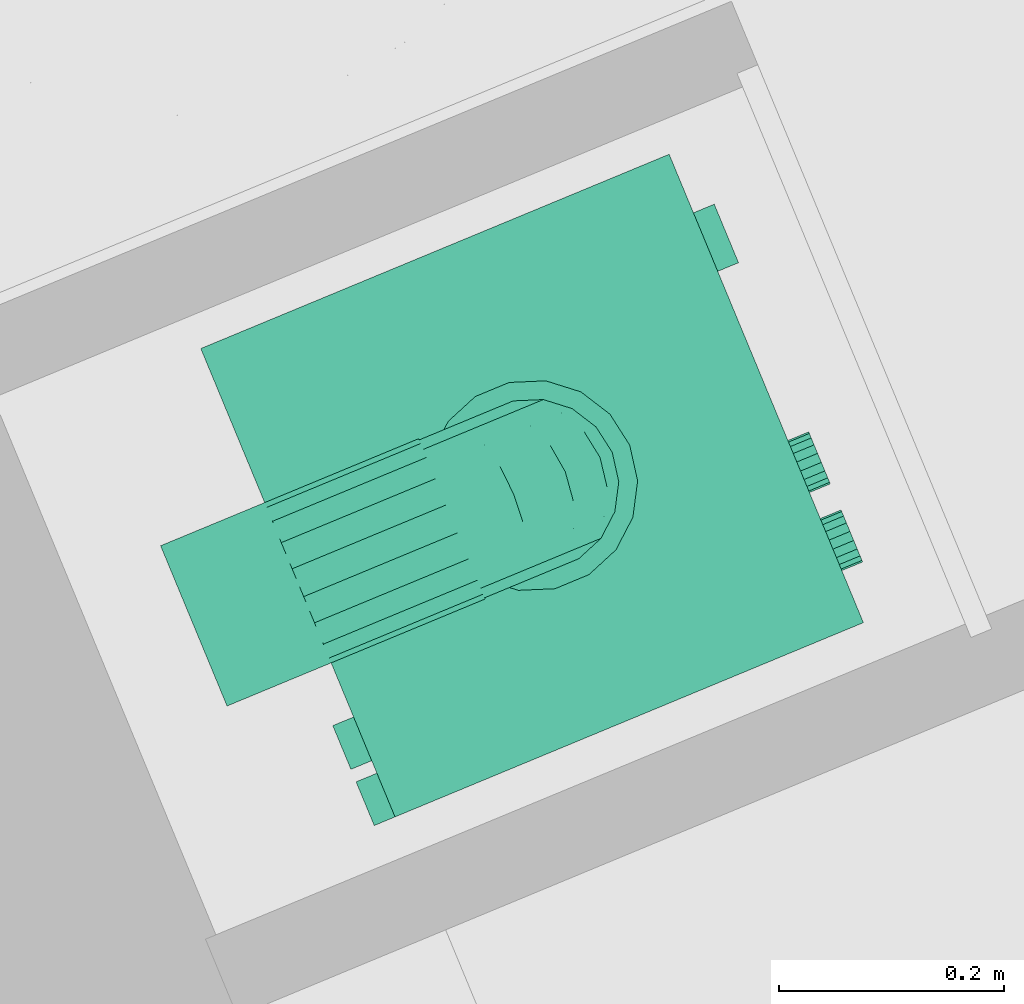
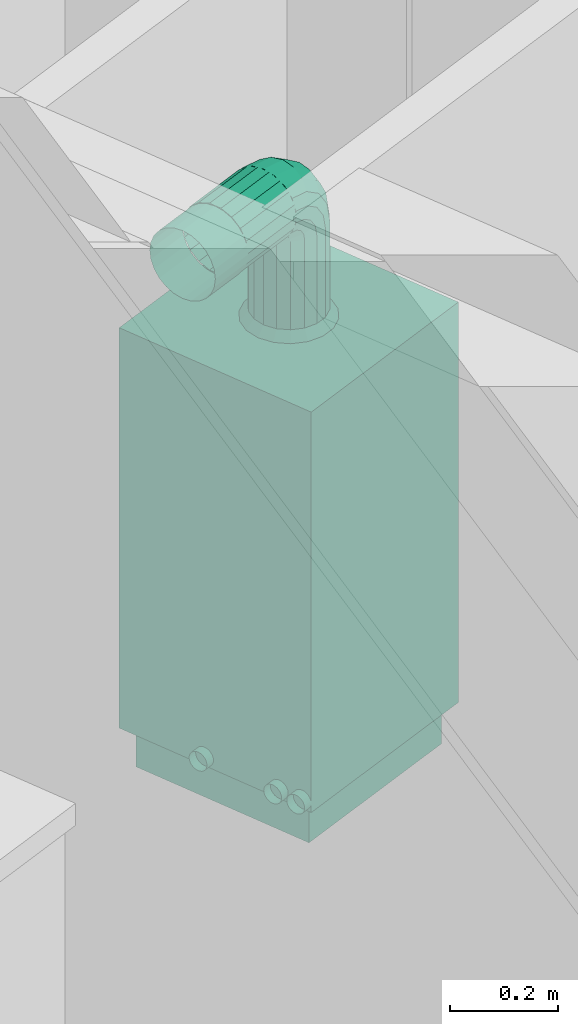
# One storey, part 64 of 91: 1 energy conversion device.
"""IFC2X3 building model written with IfcOpenShell, lengths in metres."""

from ifc_helpers import new_model, entity, si_unit, converted_unit, derived_unit, money_unit, direction, frame, origin_with_axes, place, context, subcontext, project, spatial, open_shell, faceted_brep, surface_model, source, transform, mapped, type_object, element, save


model = new_model("IFC2X3")

# Units and contexts
model_context = context("Model", 3, precision=1e-05, world=origin_with_axes(), true_north=direction((0.0, 1.0)))
body_context = subcontext(model_context, "Body", "Model", "MODEL_VIEW")
ifc_project = project(units=[si_unit("LENGTHUNIT", "METRE"), si_unit("AREAUNIT", "SQUARE_METRE"), si_unit("VOLUMEUNIT", "CUBIC_METRE"), converted_unit("PLANEANGLEUNIT", "DEGREE", entity("IfcPlaneAngleMeasure", 0.0174532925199), si_unit("PLANEANGLEUNIT", "RADIAN"), dimensions=[0, 0, 0, 0, 0, 0, 0]), si_unit("SOLIDANGLEUNIT", "STERADIAN"), money_unit("EUR"), converted_unit("TIMEUNIT", "Year", entity("IfcTimeMeasure", 31556926.0), si_unit("TIMEUNIT", "SECOND"), dimensions=[0, 0, 1, 0, 0, 0, 0]), si_unit("MASSUNIT", "GRAM", prefix="KILO"), si_unit("THERMODYNAMICTEMPERATUREUNIT", "DEGREE_CELSIUS"), si_unit("LUMINOUSINTENSITYUNIT", "LUMEN"), si_unit("ENERGYUNIT", "JOULE", prefix="MEGA"), derived_unit("THERMALCONDUCTANCEUNIT", [(si_unit("POWERUNIT", "WATT"), 1), (si_unit("LENGTHUNIT", "METRE"), -1), (si_unit("THERMODYNAMICTEMPERATUREUNIT", "KELVIN"), -1)]), derived_unit("SPECIFICHEATCAPACITYUNIT", [(si_unit("ENERGYUNIT", "JOULE"), 1), (si_unit("MASSUNIT", "GRAM", prefix="KILO"), -1), (si_unit("THERMODYNAMICTEMPERATUREUNIT", "KELVIN"), -1)]), derived_unit("MASSDENSITYUNIT", [(si_unit("MASSUNIT", "GRAM", prefix="KILO"), 1), (si_unit("VOLUMEUNIT", "CUBIC_METRE"), -1)])], contexts=[model_context])

# Site, building, storey
site_placement = place(None, origin_with_axes())
site = spatial("IfcSite", under=ifc_project, at=site_placement, Name="Site", CompositionType="ELEMENT")
building_placement = place(site_placement, origin_with_axes())
building = spatial("IfcBuilding", under=site, at=building_placement, Name="Bâtiment", CompositionType="ELEMENT")
storey_placement = place(building_placement, frame((0.0, 0.0, 5.44), z_axis=(0.0, 0.0, 1.0), x_axis=(1.0, 0.0, 0.0)))
storey = spatial("IfcBuildingStorey", under=building, at=storey_placement, Name="R+2", CompositionType="ELEMENT", Elevation=5.44)

# Energy conversion device
boiler_type = type_object("IfcBoilerType", Name="Chaudière à gaz 23", PredefinedType="WATER")
shared_shape = source(origin_with_axes(), body_context, "Body", "SurfaceModel", [
    surface_model("IfcShellBasedSurfaceModel", [(-0.2, 0.45, 0.090909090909), (-0.2, 0.47, 0.090909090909), (-0.194564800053, 0.47, 0.0916246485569), (-0.194564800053, 0.45, 0.0916246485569), (-0.205435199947, 0.45, 0.0916246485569), (-0.205435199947, 0.47, 0.0916246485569), (-0.1895, 0.47, 0.0937225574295), (-0.1895, 0.45, 0.0937225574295), (-0.2105, 0.45, 0.0937225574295), (-0.2105, 0.47, 0.0937225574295), (-0.185150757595, 0.47, 0.0970598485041), (-0.185150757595, 0.45, 0.0970598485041), (-0.214849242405, 0.45, 0.0970598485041), (-0.214849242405, 0.47, 0.0970598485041), (-0.181813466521, 0.47, 0.101409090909), (-0.181813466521, 0.45, 0.101409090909), (-0.218186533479, 0.45, 0.101409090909), (-0.218186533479, 0.47, 0.101409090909), (-0.179715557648, 0.47, 0.106473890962), (-0.179715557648, 0.45, 0.106473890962), (-0.220284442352, 0.45, 0.106473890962), (-0.220284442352, 0.47, 0.106473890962), (-0.179, 0.47, 0.111909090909), (-0.179, 0.45, 0.111909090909), (-0.221, 0.45, 0.111909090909), (-0.221, 0.47, 0.111909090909), (-0.179715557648, 0.47, 0.117344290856), (-0.179715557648, 0.45, 0.117344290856), (-0.220284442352, 0.45, 0.117344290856), (-0.220284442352, 0.47, 0.117344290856), (-0.181813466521, 0.47, 0.122409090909), (-0.181813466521, 0.45, 0.122409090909), (-0.218186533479, 0.45, 0.122409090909), (-0.218186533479, 0.47, 0.122409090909), (-0.185150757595, 0.47, 0.126758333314), (-0.185150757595, 0.45, 0.126758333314), (-0.214849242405, 0.45, 0.126758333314), (-0.214849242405, 0.47, 0.126758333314), (-0.1895, 0.47, 0.130095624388), (-0.1895, 0.45, 0.130095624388), (-0.2105, 0.45, 0.130095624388), (-0.2105, 0.47, 0.130095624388), (-0.194564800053, 0.47, 0.132193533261), (-0.194564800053, 0.45, 0.132193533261), (-0.205435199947, 0.45, 0.132193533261), (-0.205435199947, 0.47, 0.132193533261), (-0.2, 0.47, 0.132909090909), (-0.2, 0.45, 0.132909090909)], [open_shell([[[0, 1, 2, 3]], [[4, 5, 1, 0]], [[3, 2, 6, 7]], [[8, 9, 5, 4]], [[7, 6, 10, 11]], [[12, 13, 9, 8]], [[11, 10, 14, 15]], [[16, 17, 13, 12]], [[15, 14, 18, 19]], [[20, 21, 17, 16]], [[19, 18, 22, 23]], [[24, 25, 21, 20]], [[23, 22, 26, 27]], [[28, 29, 25, 24]], [[27, 26, 30, 31]], [[32, 33, 29, 28]], [[31, 30, 34, 35]], [[36, 37, 33, 32]], [[35, 34, 38, 39]], [[40, 41, 37, 36]], [[39, 38, 42, 43]], [[44, 45, 41, 40]], [[43, 42, 46, 47]], [[47, 46, 45, 44]]])]),
    surface_model("IfcShellBasedSurfaceModel", [(-0.375, 0.45, 0.090909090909), (-0.375, 0.47, 0.090909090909), (-0.369564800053, 0.47, 0.0916246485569), (-0.369564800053, 0.45, 0.0916246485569), (-0.380435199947, 0.45, 0.0916246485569), (-0.380435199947, 0.47, 0.0916246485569), (-0.3645, 0.47, 0.0937225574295), (-0.3645, 0.45, 0.0937225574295), (-0.3855, 0.45, 0.0937225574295), (-0.3855, 0.47, 0.0937225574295), (-0.360150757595, 0.47, 0.0970598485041), (-0.360150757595, 0.45, 0.0970598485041), (-0.389849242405, 0.45, 0.0970598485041), (-0.389849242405, 0.47, 0.0970598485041), (-0.356813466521, 0.47, 0.101409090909), (-0.356813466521, 0.45, 0.101409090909), (-0.393186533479, 0.45, 0.101409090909), (-0.393186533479, 0.47, 0.101409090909), (-0.354715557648, 0.47, 0.106473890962), (-0.354715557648, 0.45, 0.106473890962), (-0.395284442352, 0.45, 0.106473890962), (-0.395284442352, 0.47, 0.106473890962), (-0.354, 0.47, 0.111909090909), (-0.354, 0.45, 0.111909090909), (-0.396, 0.45, 0.111909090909), (-0.396, 0.47, 0.111909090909), (-0.354715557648, 0.47, 0.117344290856), (-0.354715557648, 0.45, 0.117344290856), (-0.395284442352, 0.45, 0.117344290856), (-0.395284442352, 0.47, 0.117344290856), (-0.356813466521, 0.47, 0.122409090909), (-0.356813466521, 0.45, 0.122409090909), (-0.393186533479, 0.45, 0.122409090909), (-0.393186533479, 0.47, 0.122409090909), (-0.360150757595, 0.47, 0.126758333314), (-0.360150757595, 0.45, 0.126758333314), (-0.389849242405, 0.45, 0.126758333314), (-0.389849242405, 0.47, 0.126758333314), (-0.3645, 0.47, 0.130095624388), (-0.3645, 0.45, 0.130095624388), (-0.3855, 0.45, 0.130095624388), (-0.3855, 0.47, 0.130095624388), (-0.369564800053, 0.47, 0.132193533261), (-0.369564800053, 0.45, 0.132193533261), (-0.380435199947, 0.45, 0.132193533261), (-0.380435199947, 0.47, 0.132193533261), (-0.375, 0.47, 0.132909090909), (-0.375, 0.45, 0.132909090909)], [open_shell([[[0, 1, 2, 3]], [[4, 5, 1, 0]], [[3, 2, 6, 7]], [[8, 9, 5, 4]], [[7, 6, 10, 11]], [[12, 13, 9, 8]], [[11, 10, 14, 15]], [[16, 17, 13, 12]], [[15, 14, 18, 19]], [[20, 21, 17, 16]], [[19, 18, 22, 23]], [[24, 25, 21, 20]], [[23, 22, 26, 27]], [[28, 29, 25, 24]], [[27, 26, 30, 31]], [[32, 33, 29, 28]], [[31, 30, 34, 35]], [[36, 37, 33, 32]], [[35, 34, 38, 39]], [[40, 41, 37, 36]], [[39, 38, 42, 43]], [[44, 45, 41, 40]], [[43, 42, 46, 47]], [[47, 46, 45, 44]]])]),
    surface_model("IfcShellBasedSurfaceModel", [(-0.429, 0.45, 0.090909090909), (-0.429, 0.47, 0.090909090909), (-0.423564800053, 0.47, 0.0916246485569), (-0.423564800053, 0.45, 0.0916246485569), (-0.434435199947, 0.45, 0.0916246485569), (-0.434435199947, 0.47, 0.0916246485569), (-0.4185, 0.47, 0.0937225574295), (-0.4185, 0.45, 0.0937225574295), (-0.4395, 0.45, 0.0937225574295), (-0.4395, 0.47, 0.0937225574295), (-0.414150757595, 0.47, 0.0970598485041), (-0.414150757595, 0.45, 0.0970598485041), (-0.443849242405, 0.45, 0.0970598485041), (-0.443849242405, 0.47, 0.0970598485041), (-0.410813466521, 0.47, 0.101409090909), (-0.410813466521, 0.45, 0.101409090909), (-0.447186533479, 0.45, 0.101409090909), (-0.447186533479, 0.47, 0.101409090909), (-0.408715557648, 0.47, 0.106473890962), (-0.408715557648, 0.45, 0.106473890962), (-0.449284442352, 0.45, 0.106473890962), (-0.449284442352, 0.47, 0.106473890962), (-0.408, 0.47, 0.111909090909), (-0.408, 0.45, 0.111909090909), (-0.45, 0.45, 0.111909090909), (-0.45, 0.47, 0.111909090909), (-0.408715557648, 0.47, 0.117344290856), (-0.408715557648, 0.45, 0.117344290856), (-0.449284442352, 0.45, 0.117344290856), (-0.449284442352, 0.47, 0.117344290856), (-0.410813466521, 0.47, 0.122409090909), (-0.410813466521, 0.45, 0.122409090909), (-0.447186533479, 0.45, 0.122409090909), (-0.447186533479, 0.47, 0.122409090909), (-0.414150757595, 0.47, 0.126758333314), (-0.414150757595, 0.45, 0.126758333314), (-0.443849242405, 0.45, 0.126758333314), (-0.443849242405, 0.47, 0.126758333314), (-0.4185, 0.47, 0.130095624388), (-0.4185, 0.45, 0.130095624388), (-0.4395, 0.45, 0.130095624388), (-0.4395, 0.47, 0.130095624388), (-0.423564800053, 0.47, 0.132193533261), (-0.423564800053, 0.45, 0.132193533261), (-0.434435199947, 0.45, 0.132193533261), (-0.434435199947, 0.47, 0.132193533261), (-0.429, 0.47, 0.132909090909), (-0.429, 0.45, 0.132909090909)], [open_shell([[[0, 1, 2, 3]], [[4, 5, 1, 0]], [[3, 2, 6, 7]], [[8, 9, 5, 4]], [[7, 6, 10, 11]], [[12, 13, 9, 8]], [[11, 10, 14, 15]], [[16, 17, 13, 12]], [[15, 14, 18, 19]], [[20, 21, 17, 16]], [[19, 18, 22, 23]], [[24, 25, 21, 20]], [[23, 22, 26, 27]], [[28, 29, 25, 24]], [[27, 26, 30, 31]], [[32, 33, 29, 28]], [[31, 30, 34, 35]], [[36, 37, 33, 32]], [[35, 34, 38, 39]], [[40, 41, 37, 36]], [[39, 38, 42, 43]], [[44, 45, 41, 40]], [[43, 42, 46, 47]], [[47, 46, 45, 44]]])]),
    surface_model("IfcShellBasedSurfaceModel", [(-0.225, 0.45, 1.218), (-0.225, 0.55, 1.218), (-0.205070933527, 0.55, 1.22062371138), (-0.205070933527, 0.45, 1.22062371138), (-0.244929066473, 0.45, 1.22062371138), (-0.244929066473, 0.55, 1.22062371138), (-0.1865, 0.55, 1.22831604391), (-0.1865, 0.45, 1.22831604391), (-0.2635, 0.45, 1.22831604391), (-0.2635, 0.55, 1.22831604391), (-0.170552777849, 0.55, 1.24055277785), (-0.170552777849, 0.45, 1.24055277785), (-0.279447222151, 0.45, 1.24055277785), (-0.279447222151, 0.55, 1.24055277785), (-0.158316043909, 0.55, 1.2565), (-0.158316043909, 0.45, 1.2565), (-0.291683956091, 0.45, 1.2565), (-0.291683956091, 0.55, 1.2565), (-0.150623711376, 0.55, 1.27507093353), (-0.150623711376, 0.45, 1.27507093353), (-0.299376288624, 0.45, 1.27507093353), (-0.299376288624, 0.55, 1.27507093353), (-0.148, 0.55, 1.295), (-0.148, 0.45, 1.295), (-0.302, 0.45, 1.295), (-0.302, 0.55, 1.295), (-0.150623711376, 0.55, 1.31492906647), (-0.150623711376, 0.45, 1.31492906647), (-0.299376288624, 0.45, 1.31492906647), (-0.299376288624, 0.55, 1.31492906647), (-0.158316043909, 0.55, 1.3335), (-0.158316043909, 0.45, 1.3335), (-0.291683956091, 0.45, 1.3335), (-0.291683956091, 0.55, 1.3335), (-0.170552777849, 0.55, 1.34944722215), (-0.170552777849, 0.45, 1.34944722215), (-0.279447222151, 0.45, 1.34944722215), (-0.279447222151, 0.55, 1.34944722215), (-0.1865, 0.55, 1.36168395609), (-0.1865, 0.45, 1.36168395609), (-0.2635, 0.45, 1.36168395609), (-0.2635, 0.55, 1.36168395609), (-0.205070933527, 0.55, 1.36937628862), (-0.205070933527, 0.45, 1.36937628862), (-0.244929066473, 0.45, 1.36937628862), (-0.244929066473, 0.55, 1.36937628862), (-0.225, 0.55, 1.372), (-0.225, 0.45, 1.372)], [open_shell([[[0, 1, 2, 3]], [[4, 5, 1, 0]], [[3, 2, 6, 7]], [[8, 9, 5, 4]], [[7, 6, 10, 11]], [[12, 13, 9, 8]], [[11, 10, 14, 15]], [[16, 17, 13, 12]], [[15, 14, 18, 19]], [[20, 21, 17, 16]], [[19, 18, 22, 23]], [[24, 25, 21, 20]], [[23, 22, 26, 27]], [[28, 29, 25, 24]], [[27, 26, 30, 31]], [[32, 33, 29, 28]], [[31, 30, 34, 35]], [[36, 37, 33, 32]], [[35, 34, 38, 39]], [[40, 41, 37, 36]], [[39, 38, 42, 43]], [[44, 45, 41, 40]], [[43, 42, 46, 47]], [[47, 46, 45, 44]]])]),
    faceted_brep([(-0.4275, 0.0225, 0.0), (-0.4275, 0.4275, 0.0), (-0.0225, 0.4275, 0.0), (-0.0225, 0.0225, 0.0), (-0.4275, 0.0225, 0.0909090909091), (-0.4275, 0.4275, 0.0909090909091), (-0.0225, 0.4275, 0.0909090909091), (-0.0225, 0.0225, 0.0909090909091)], [[[0, 1, 2, 3]], [[0, 4, 5, 1]], [[1, 5, 6, 2]], [[2, 6, 7, 3]], [[3, 7, 4, 0]], [[7, 6, 5, 4]]]),
    faceted_brep([(0.0, 0.45, 0.0909090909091), (-0.45, 0.45, 0.0909090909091), (-0.45, 0.45, 1.0), (0.0, 0.45, 1.0), (0.0, 0.0, 0.0909090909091), (-0.45, 0.0, 0.0909090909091), (-0.45, 0.0, 0.818181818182), (-0.45, 0.0225, 0.818181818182), (-0.45, 0.0225, 1.0), (0.0, 0.0225, 1.0), (0.0, 0.0225, 0.818181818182), (0.0, 0.0, 0.818181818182)], [[[0, 1, 2, 3]], [[4, 5, 1, 0]], [[1, 5, 6, 7, 8, 2]], [[3, 2, 8, 9]], [[0, 3, 9, 10, 11, 4]], [[11, 6, 5, 4]], [[10, 7, 6, 11]], [[9, 8, 7, 10]]]),
    faceted_brep([(-0.45, 0.0, 0.818181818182), (-0.45, 0.0225, 0.818181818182), (0.0, 0.0225, 0.818181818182), (0.0, 0.0, 0.818181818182), (-0.45, 0.0, 1.0), (-0.45, 0.0225, 1.0), (0.0, 0.0225, 1.0), (0.0, 0.0, 1.0)], [[[0, 1, 2, 3]], [[0, 4, 5, 1]], [[1, 5, 6, 2]], [[2, 6, 7, 3]], [[3, 7, 4, 0]], [[7, 6, 5, 4]]]),
    faceted_brep([(-0.32349231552, 0.0, 0.900540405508), (-0.325, 0.0, 0.909090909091), (-0.32349231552, 0.0, 0.917641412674), (-0.319151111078, 0.0, 0.925160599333), (-0.3125, 0.0, 0.930741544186), (-0.304341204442, 0.0, 0.933711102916), (-0.295658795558, 0.0, 0.933711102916), (-0.2875, 0.0, 0.930741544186), (-0.280848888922, 0.0, 0.925160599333), (-0.27650768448, 0.0, 0.917641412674), (-0.275, 0.0, 0.909090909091), (-0.27650768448, 0.0, 0.900540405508), (-0.280848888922, 0.0, 0.893021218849), (-0.2875, 0.0, 0.887440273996), (-0.295658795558, 0.0, 0.884470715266), (-0.304341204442, 0.0, 0.884470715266), (-0.3125, 0.0, 0.887440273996), (-0.319151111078, 0.0, 0.893021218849), (-0.32349231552, -0.02, 0.900540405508), (-0.325, -0.02, 0.909090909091), (-0.32349231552, -0.02, 0.917641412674), (-0.319151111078, -0.02, 0.925160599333), (-0.3125, -0.02, 0.930741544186), (-0.304341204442, -0.02, 0.933711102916), (-0.295658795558, -0.02, 0.933711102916), (-0.2875, -0.02, 0.930741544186), (-0.280848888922, -0.02, 0.925160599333), (-0.27650768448, -0.02, 0.917641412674), (-0.275, -0.02, 0.909090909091), (-0.27650768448, -0.02, 0.900540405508), (-0.280848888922, -0.02, 0.893021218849), (-0.2875, -0.02, 0.887440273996), (-0.295658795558, -0.02, 0.884470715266), (-0.304341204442, -0.02, 0.884470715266), (-0.3125, -0.02, 0.887440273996), (-0.319151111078, -0.02, 0.893021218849)], [[[0, 1, 2, 3, 4, 5, 6, 7, 8, 9, 10, 11, 12, 13, 14, 15, 16, 17]], [[0, 18, 19, 1]], [[1, 19, 20, 2]], [[2, 20, 21, 3]], [[3, 21, 22, 4]], [[4, 22, 23, 5]], [[5, 23, 24, 6]], [[6, 24, 25, 7]], [[7, 25, 26, 8]], [[8, 26, 27, 9]], [[9, 27, 28, 10]], [[10, 28, 29, 11]], [[11, 29, 30, 12]], [[12, 30, 31, 13]], [[13, 31, 32, 14]], [[14, 32, 33, 15]], [[15, 33, 34, 16]], [[16, 34, 35, 17]], [[17, 35, 18, 0]], [[18, 35, 34, 33, 32, 31, 30, 29, 28, 27, 26, 25, 24, 23, 22, 21, 20, 19]]]),
    faceted_brep([(-0.39849231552, 0.0, 0.900540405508), (-0.4, 0.0, 0.909090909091), (-0.39849231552, 0.0, 0.917641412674), (-0.394151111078, 0.0, 0.925160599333), (-0.3875, 0.0, 0.930741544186), (-0.379341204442, 0.0, 0.933711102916), (-0.370658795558, 0.0, 0.933711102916), (-0.3625, 0.0, 0.930741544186), (-0.355848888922, 0.0, 0.925160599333), (-0.35150768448, 0.0, 0.917641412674), (-0.35, 0.0, 0.909090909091), (-0.35150768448, 0.0, 0.900540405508), (-0.355848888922, 0.0, 0.893021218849), (-0.3625, 0.0, 0.887440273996), (-0.370658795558, 0.0, 0.884470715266), (-0.379341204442, 0.0, 0.884470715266), (-0.3875, 0.0, 0.887440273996), (-0.394151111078, 0.0, 0.893021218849), (-0.39849231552, -0.02, 0.900540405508), (-0.4, -0.02, 0.909090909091), (-0.39849231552, -0.02, 0.917641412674), (-0.394151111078, -0.02, 0.925160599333), (-0.3875, -0.02, 0.930741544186), (-0.379341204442, -0.02, 0.933711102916), (-0.370658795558, -0.02, 0.933711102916), (-0.3625, -0.02, 0.930741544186), (-0.355848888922, -0.02, 0.925160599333), (-0.35150768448, -0.02, 0.917641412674), (-0.35, -0.02, 0.909090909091), (-0.35150768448, -0.02, 0.900540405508), (-0.355848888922, -0.02, 0.893021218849), (-0.3625, -0.02, 0.887440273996), (-0.370658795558, -0.02, 0.884470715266), (-0.379341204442, -0.02, 0.884470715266), (-0.3875, -0.02, 0.887440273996), (-0.394151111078, -0.02, 0.893021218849)], [[[0, 1, 2, 3, 4, 5, 6, 7, 8, 9, 10, 11, 12, 13, 14, 15, 16, 17]], [[0, 18, 19, 1]], [[1, 19, 20, 2]], [[2, 20, 21, 3]], [[3, 21, 22, 4]], [[4, 22, 23, 5]], [[5, 23, 24, 6]], [[6, 24, 25, 7]], [[7, 25, 26, 8]], [[8, 26, 27, 9]], [[9, 27, 28, 10]], [[10, 28, 29, 11]], [[11, 29, 30, 12]], [[12, 30, 31, 13]], [[13, 31, 32, 14]], [[14, 32, 33, 15]], [[15, 33, 34, 16]], [[16, 34, 35, 17]], [[17, 35, 18, 0]], [[18, 35, 34, 33, 32, 31, 30, 29, 28, 27, 26, 25, 24, 23, 22, 21, 20, 19]]]),
    faceted_brep([(-0.1125, 0.0, 0.878787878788), (-0.1125, 0.0, 0.939393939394), (-0.05625, 0.0, 0.939393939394), (-0.05625, 0.0, 0.878787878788), (-0.1125, -0.02, 0.878787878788), (-0.1125, -0.02, 0.939393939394), (-0.05625, -0.02, 0.939393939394), (-0.05625, -0.02, 0.878787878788)], [[[0, 1, 2, 3]], [[0, 4, 5, 1]], [[1, 5, 6, 2]], [[2, 6, 7, 3]], [[3, 7, 4, 0]], [[7, 6, 5, 4]]]),
    surface_model("IfcShellBasedSurfaceModel", [(-0.198664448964, 0.297356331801, 1.22), (-0.198664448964, 0.297356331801, 1.02), (-0.225, 0.302, 1.02), (-0.225, 0.302, 1.22), (-0.175505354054, 0.28398542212, 1.22), (-0.175505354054, 0.28398542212, 1.02), (-0.192935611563, 0.313096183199, 1.0), (-0.225, 0.31875, 1.0), (-0.251335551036, 0.297356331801, 1.02), (-0.251335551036, 0.297356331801, 1.22), (-0.158316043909, 0.2635, 1.22), (-0.158316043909, 0.2635, 1.02), (-0.164738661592, 0.296816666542, 1.0), (-0.257064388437, 0.313096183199, 1.0), (-0.274494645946, 0.28398542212, 1.02), (-0.274494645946, 0.28398542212, 1.22), (-0.149169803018, 0.23837090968, 1.22), (-0.149169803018, 0.23837090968, 1.02), (-0.143810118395, 0.271875, 1.0), (-0.285261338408, 0.296816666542, 1.0), (-0.291683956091, 0.2635, 1.02), (-0.291683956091, 0.2635, 1.22), (-0.149169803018, 0.21162909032, 1.22), (-0.149169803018, 0.21162909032, 1.02), (-0.132674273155, 0.241279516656, 1.0), (-0.306189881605, 0.271875, 1.0), (-0.300830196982, 0.23837090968, 1.02), (-0.300830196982, 0.23837090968, 1.22), (-0.158316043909, 0.1865, 1.22), (-0.158316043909, 0.1865, 1.02), (-0.132674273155, 0.208720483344, 1.0), (-0.317325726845, 0.241279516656, 1.0), (-0.300830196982, 0.21162909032, 1.02), (-0.300830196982, 0.21162909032, 1.22), (-0.175505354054, 0.16601457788, 1.22), (-0.175505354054, 0.16601457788, 1.02), (-0.143810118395, 0.178125, 1.0), (-0.317325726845, 0.208720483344, 1.0), (-0.291683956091, 0.1865, 1.02), (-0.291683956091, 0.1865, 1.22), (-0.198664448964, 0.152643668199, 1.22), (-0.198664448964, 0.152643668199, 1.02), (-0.164738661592, 0.153183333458, 1.0), (-0.306189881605, 0.178125, 1.0), (-0.274494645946, 0.16601457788, 1.02), (-0.274494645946, 0.16601457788, 1.22), (-0.225, 0.148, 1.22), (-0.225, 0.148, 1.02), (-0.192935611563, 0.136903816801, 1.0), (-0.285261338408, 0.153183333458, 1.0), (-0.251335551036, 0.152643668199, 1.02), (-0.251335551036, 0.152643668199, 1.22), (-0.225, 0.13125, 1.0), (-0.257064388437, 0.136903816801, 1.0)], [open_shell([[[0, 1, 2, 3]], [[4, 5, 1, 0]], [[1, 6, 7, 2]], [[3, 2, 8, 9]], [[10, 11, 5, 4]], [[5, 12, 6, 1]], [[2, 7, 13, 8]], [[9, 8, 14, 15]], [[16, 17, 11, 10]], [[11, 18, 12, 5]], [[8, 13, 19, 14]], [[15, 14, 20, 21]], [[22, 23, 17, 16]], [[17, 24, 18, 11]], [[14, 19, 25, 20]], [[21, 20, 26, 27]], [[28, 29, 23, 22]], [[23, 30, 24, 17]], [[20, 25, 31, 26]], [[27, 26, 32, 33]], [[34, 35, 29, 28]], [[29, 36, 30, 23]], [[26, 31, 37, 32]], [[33, 32, 38, 39]], [[40, 41, 35, 34]], [[35, 42, 36, 29]], [[32, 37, 43, 38]], [[39, 38, 44, 45]], [[46, 47, 41, 40]], [[41, 48, 42, 35]], [[38, 43, 49, 44]], [[45, 44, 50, 51]], [[51, 50, 47, 46]], [[47, 52, 48, 41]], [[44, 49, 53, 50]], [[50, 53, 52, 47]]])]),
    faceted_brep([(-0.300830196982, 0.218508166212, 1.2545834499), (-0.300830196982, 0.21162909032, 1.22), (-0.291683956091, 0.1865, 1.22), (-0.291683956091, 0.195291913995, 1.26419993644), (-0.300830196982, 0.243214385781, 1.24434979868), (-0.300830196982, 0.23837090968, 1.22), (-0.291683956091, 0.2635, 1.22), (-0.274494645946, 0.28398542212, 1.22), (-0.251335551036, 0.297356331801, 1.22), (-0.225, 0.302, 1.22), (-0.198664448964, 0.297356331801, 1.22), (-0.175505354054, 0.28398542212, 1.22), (-0.158316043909, 0.2635, 1.22), (-0.149169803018, 0.23837090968, 1.22), (-0.149169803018, 0.21162909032, 1.22), (-0.158316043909, 0.1865, 1.22), (-0.175505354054, 0.16601457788, 1.22), (-0.198664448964, 0.152643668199, 1.22), (-0.225, 0.148, 1.22), (-0.251335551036, 0.152643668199, 1.22), (-0.274494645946, 0.16601457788, 1.22), (-0.274494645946, 0.176365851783, 1.27203936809), (-0.300830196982, 0.238098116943, 1.28390188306), (-0.291683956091, 0.220329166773, 1.30167083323), (-0.300830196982, 0.257007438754, 1.26499256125), (-0.291683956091, 0.266430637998, 1.23473331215), (-0.274494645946, 0.28535670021, 1.2268938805), (-0.251335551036, 0.297709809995, 1.22177705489), (-0.198664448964, 0.297709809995, 1.22177705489), (-0.175505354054, 0.28535670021, 1.2268938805), (-0.158316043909, 0.266430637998, 1.23473331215), (-0.149169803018, 0.243214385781, 1.24434979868), (-0.149169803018, 0.218508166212, 1.2545834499), (-0.158316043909, 0.195291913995, 1.26419993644), (-0.175505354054, 0.176365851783, 1.27203936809), (-0.198664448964, 0.164012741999, 1.2771561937), (-0.225, 0.159722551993, 1.27893324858), (-0.251335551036, 0.164012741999, 1.2771561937), (-0.274494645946, 0.205843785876, 1.31615621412), (-0.291683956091, 0.257800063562, 1.32670808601), (-0.300830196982, 0.267416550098, 1.30349183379), (-0.300830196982, 0.277650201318, 1.27878561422), (-0.291683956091, 0.274776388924, 1.24722361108), (-0.274494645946, 0.289261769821, 1.23273823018), (-0.251335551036, 0.298716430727, 1.22328356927), (-0.198664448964, 0.298716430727, 1.22328356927), (-0.175505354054, 0.289261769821, 1.23273823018), (-0.158316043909, 0.274776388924, 1.24722361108), (-0.149169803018, 0.257007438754, 1.26499256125), (-0.149169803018, 0.238098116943, 1.28390188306), (-0.158316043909, 0.220329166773, 1.30167083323), (-0.175505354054, 0.205843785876, 1.31615621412), (-0.198664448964, 0.196389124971, 1.32561087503), (-0.225, 0.193105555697, 1.3288944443), (-0.251335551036, 0.196389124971, 1.32561087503), (-0.274494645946, 0.249960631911, 1.34563414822), (-0.291683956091, 0.302, 1.3355), (-0.300830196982, 0.302, 1.31037090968), (-0.300830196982, 0.302, 1.28362909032), (-0.291683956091, 0.287266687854, 1.255569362), (-0.274494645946, 0.295106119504, 1.23664329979), (-0.251335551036, 0.300222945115, 1.22429019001), (-0.198664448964, 0.300222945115, 1.22429019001), (-0.175505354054, 0.295106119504, 1.23664329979), (-0.158316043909, 0.287266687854, 1.255569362), (-0.149169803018, 0.277650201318, 1.27878561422), (-0.149169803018, 0.267416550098, 1.30349183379), (-0.158316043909, 0.257800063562, 1.32670808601), (-0.175505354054, 0.249960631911, 1.34563414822), (-0.198664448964, 0.244843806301, 1.357987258), (-0.225, 0.243066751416, 1.36227744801), (-0.251335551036, 0.244843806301, 1.357987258), (-0.274494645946, 0.302, 1.35598542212), (-0.291683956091, 0.302, 1.2585), (-0.251335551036, 0.302, 1.3693563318), (-0.225, 0.302, 1.374), (-0.198664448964, 0.302, 1.3693563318), (-0.175505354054, 0.302, 1.35598542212), (-0.158316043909, 0.302, 1.3355), (-0.149169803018, 0.302, 1.31037090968), (-0.149169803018, 0.302, 1.28362909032), (-0.158316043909, 0.302, 1.2585), (-0.175505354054, 0.302, 1.23801457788), (-0.198664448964, 0.302, 1.2246436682), (-0.251335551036, 0.302, 1.2246436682), (-0.274494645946, 0.302, 1.23801457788)], [[[0, 1, 2, 3]], [[1, 0, 4, 5]], [[2, 1, 5, 6, 7, 8, 9, 10, 11, 12, 13, 14, 15, 16, 17, 18, 19, 20]], [[3, 2, 20, 21]], [[22, 0, 3, 23]], [[0, 22, 24, 4]], [[6, 5, 4, 25]], [[26, 7, 6, 25]], [[7, 26, 27, 8]], [[8, 27, 9]], [[28, 10, 9]], [[10, 28, 29, 11]], [[30, 12, 11, 29]], [[12, 30, 31, 13]], [[32, 14, 13, 31]], [[15, 14, 32, 33]], [[34, 16, 15, 33]], [[17, 16, 34, 35]], [[36, 18, 17, 35]], [[19, 18, 36, 37]], [[21, 20, 19, 37]], [[23, 3, 21, 38]], [[22, 23, 39, 40]], [[24, 22, 40, 41]], [[4, 24, 42, 25]], [[43, 26, 25, 42]], [[26, 43, 44, 27]], [[27, 44, 9]], [[45, 28, 9]], [[28, 45, 46, 29]], [[29, 46, 47, 30]], [[31, 30, 47, 48]], [[49, 32, 31, 48]], [[32, 49, 50, 33]], [[51, 34, 33, 50]], [[35, 34, 51, 52]], [[53, 36, 35, 52]], [[54, 37, 36, 53]], [[38, 21, 37, 54]], [[39, 23, 38, 55]], [[40, 39, 56, 57]], [[41, 40, 57, 58]], [[59, 42, 24, 41]], [[42, 59, 60, 43]], [[43, 60, 61, 44]], [[44, 61, 9]], [[62, 45, 9]], [[45, 62, 63, 46]], [[46, 63, 64, 47]], [[47, 64, 65, 48]], [[66, 49, 48, 65]], [[50, 49, 66, 67]], [[68, 51, 50, 67]], [[52, 51, 68, 69]], [[53, 52, 69, 70]], [[71, 54, 53, 70]], [[55, 38, 54, 71]], [[56, 39, 55, 72]], [[73, 58, 57, 56, 72, 74, 75, 76, 77, 78, 79, 80, 81, 82, 83, 9, 84, 85]], [[59, 41, 58, 73]], [[59, 73, 85, 60]], [[60, 85, 84, 61]], [[61, 84, 9]], [[62, 9, 83]], [[63, 62, 83, 82]], [[63, 82, 81, 64]], [[65, 64, 81, 80]], [[66, 65, 80, 79]], [[67, 66, 79, 78]], [[77, 68, 67, 78]], [[69, 68, 77, 76]], [[75, 70, 69, 76]], [[71, 70, 75, 74]], [[72, 55, 71, 74]]]),
    surface_model("IfcShellBasedSurfaceModel", [(-0.152643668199, 0.45, 1.32333555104), (-0.152643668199, 0.302, 1.32333555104), (-0.148, 0.302, 1.297), (-0.148, 0.45, 1.297), (-0.16601457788, 0.45, 1.34649464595), (-0.16601457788, 0.302, 1.34649464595), (-0.152643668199, 0.302, 1.27066444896), (-0.152643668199, 0.45, 1.27066444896), (-0.1865, 0.45, 1.36368395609), (-0.1865, 0.302, 1.36368395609), (-0.16601457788, 0.302, 1.24750535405), (-0.16601457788, 0.45, 1.24750535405), (-0.21162909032, 0.45, 1.37283019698), (-0.21162909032, 0.302, 1.37283019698), (-0.1865, 0.302, 1.23031604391), (-0.1865, 0.45, 1.23031604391), (-0.23837090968, 0.45, 1.37283019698), (-0.23837090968, 0.302, 1.37283019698), (-0.21162909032, 0.302, 1.22116980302), (-0.21162909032, 0.45, 1.22116980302), (-0.2635, 0.45, 1.36368395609), (-0.2635, 0.302, 1.36368395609), (-0.23837090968, 0.302, 1.22116980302), (-0.23837090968, 0.45, 1.22116980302), (-0.28398542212, 0.45, 1.34649464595), (-0.28398542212, 0.302, 1.34649464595), (-0.2635, 0.302, 1.23031604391), (-0.2635, 0.45, 1.23031604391), (-0.297356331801, 0.45, 1.32333555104), (-0.297356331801, 0.302, 1.32333555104), (-0.28398542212, 0.302, 1.24750535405), (-0.28398542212, 0.45, 1.24750535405), (-0.302, 0.45, 1.297), (-0.302, 0.302, 1.297), (-0.297356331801, 0.302, 1.27066444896), (-0.297356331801, 0.45, 1.27066444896)], [open_shell([[[0, 1, 2, 3]], [[4, 5, 1, 0]], [[3, 2, 6, 7]], [[8, 9, 5, 4]], [[7, 6, 10, 11]], [[12, 13, 9, 8]], [[11, 10, 14, 15]], [[16, 17, 13, 12]], [[15, 14, 18, 19]], [[20, 21, 17, 16]], [[19, 18, 22, 23]], [[24, 25, 21, 20]], [[23, 22, 26, 27]], [[28, 29, 25, 24]], [[27, 26, 30, 31]], [[32, 33, 29, 28]], [[31, 30, 34, 35]], [[35, 34, 33, 32]]])]),
])
energy_conversion_device_placement = place(storey_placement, frame((-20.8183897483, -24.0717725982, 0.9), z_axis=(0.0, 0.0, 1.0), x_axis=(-0.383112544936, 0.92370167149, 0.0)))
element("IfcEnergyConversionDevice", 1, at=energy_conversion_device_placement, inside=storey, type_object=boiler_type, Name="MOB-002", context=body_context, shape_type="MappedRepresentation", body=[
    mapped(shared_shape, transform((0.0, 0.0, 0.0))),
])

save(model, "model.ifc")
